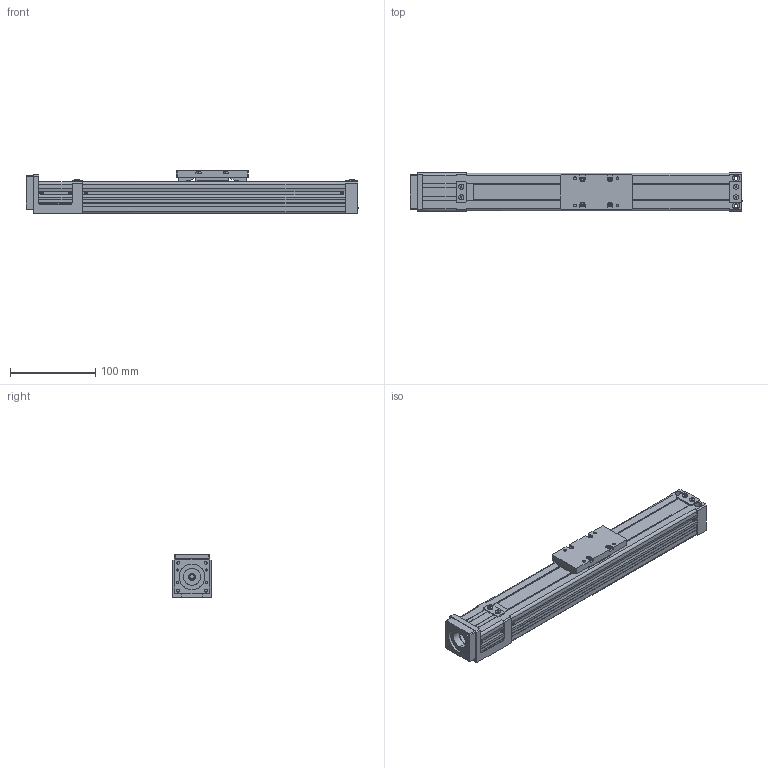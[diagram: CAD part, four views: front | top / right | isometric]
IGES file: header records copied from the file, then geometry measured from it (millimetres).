
Global section: file name: No Iges File Name specified; native system: AutoDesk Inventor R10; preprocessor: AutoDesk Inventor Iges Exporter R10; author: No Author specified; organization: No Organization specified; date: 20110617.143526; units: millimetre
Bounding box: 389 x 45 x 50 mm (x, y, z)
Surface area: 159494.9 mm2 (no closed solid volume)
Topology: 0 solids, 0 shells, 788 faces, 5206 edges, 5186 vertices
Faces by surface type: bspline 788
